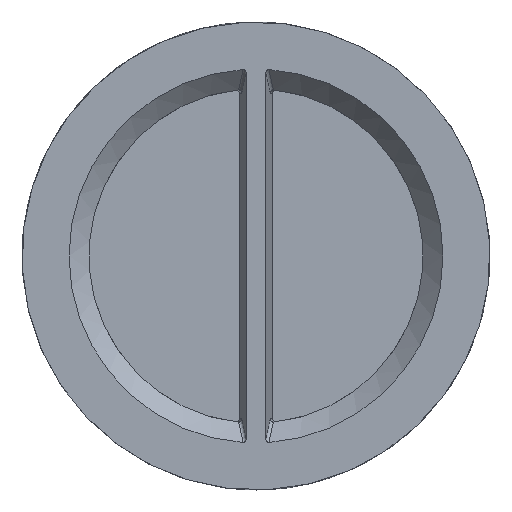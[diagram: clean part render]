
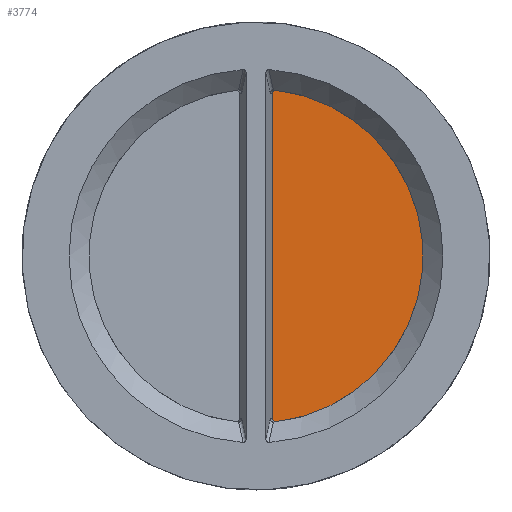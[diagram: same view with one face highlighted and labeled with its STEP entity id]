
A CAD part, front view. The second image highlights one B-rep face of the part: STEP entity #3774.
In plain terms, the highlighted planar face has unit normal (0, -1, 0) as drawn and (0, 0, 1) by its records, which use the part's own axes.
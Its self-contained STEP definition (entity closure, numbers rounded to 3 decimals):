
#3774=ADVANCED_FACE('',(#7357),#7359,.T.);
#7357=FACE_BOUND('',#7358,.T.);
#7358=EDGE_LOOP('',(#20173,#20174));
#7359=PLANE('',#7360);
#7360=AXIS2_PLACEMENT_3D('',#7361,#7362,#7363);
#7361=CARTESIAN_POINT('',(0.,0.,12.55));
#7362=DIRECTION('',(0.,0.,1.));
#7363=DIRECTION('',(-1.,0.,0.));
#20173=ORIENTED_EDGE('',*,*,#21312,.T.);
#20174=ORIENTED_EDGE('',*,*,#21338,.T.);
#21312=EDGE_CURVE('',#23080,#23078,#23081,.T.);
#21338=EDGE_CURVE('',#23078,#23080,#23124,.T.);
#23078=VERTEX_POINT('',#38296);
#23080=VERTEX_POINT('',#38300);
#23081=CIRCLE('',#38301,151.5);
#23124=LINE('',#38564,#38565);
#38296=CARTESIAN_POINT('',(151.316,-7.467,12.55));
#38300=CARTESIAN_POINT('',(-151.316,-7.467,12.55));
#38301=AXIS2_PLACEMENT_3D('',#38302,#38303,#38304);
#38302=CARTESIAN_POINT('',(0.,0.,12.55));
#38303=DIRECTION('',(0.,0.,1.));
#38304=DIRECTION('',(-0.999,-0.049,0.));
#38564=CARTESIAN_POINT('',(151.316,-7.467,12.55));
#38565=VECTOR('',#38566,1.);
#38566=DIRECTION('',(-1.,0.,0.));
